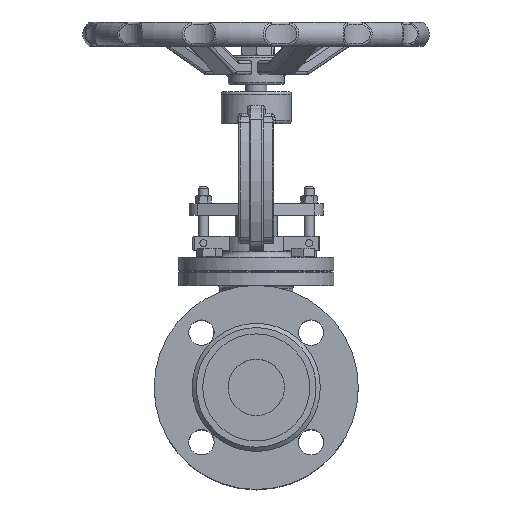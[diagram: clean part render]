
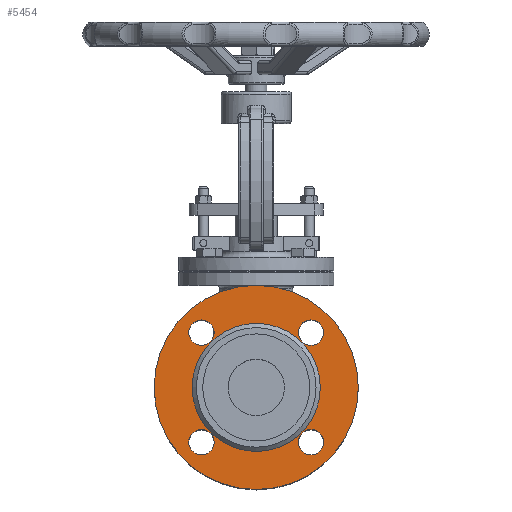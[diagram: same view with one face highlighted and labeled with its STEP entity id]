
A CAD part, top view. The second image highlights one B-rep face of the part: STEP entity #5454.
In plain terms, the highlighted planar face has unit normal (0, 0, 1).
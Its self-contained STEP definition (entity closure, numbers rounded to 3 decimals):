
#5454=ADVANCED_FACE('',(#14301,#14303,#14305,#14307,#14309,#14311),#14313,.T.);
#14301=FACE_BOUND('',#14302,.T.);
#14302=EDGE_LOOP('',(#22418));
#14303=FACE_BOUND('',#14304,.T.);
#14304=EDGE_LOOP('',(#22419));
#14305=FACE_BOUND('',#14306,.T.);
#14306=EDGE_LOOP('',(#22420));
#14307=FACE_BOUND('',#14308,.T.);
#14308=EDGE_LOOP('',(#22421));
#14309=FACE_BOUND('',#14310,.T.);
#14310=EDGE_LOOP('',(#22422));
#14311=FACE_BOUND('',#14312,.T.);
#14312=EDGE_LOOP('',(#22423));
#14313=PLANE('',#14314);
#14314=AXIS2_PLACEMENT_3D('',#14315,#14316,#14317);
#14315=CARTESIAN_POINT('',(0.,0.,97.));
#14316=DIRECTION('',(0.,0.,1.));
#14317=DIRECTION('',(0.,1.,0.));
#22418=ORIENTED_EDGE('',*,*,#25652,.F.);
#22419=ORIENTED_EDGE('',*,*,#25653,.T.);
#22420=ORIENTED_EDGE('',*,*,#25654,.T.);
#22421=ORIENTED_EDGE('',*,*,#25699,.T.);
#22422=ORIENTED_EDGE('',*,*,#25655,.T.);
#22423=ORIENTED_EDGE('',*,*,#25656,.T.);
#25652=EDGE_CURVE('',#28932,#28932,#28933,.T.);
#25653=EDGE_CURVE('',#28934,#28934,#28935,.F.);
#25654=EDGE_CURVE('',#28936,#28936,#28937,.F.);
#25655=EDGE_CURVE('',#28938,#28938,#28939,.F.);
#25656=EDGE_CURVE('',#28940,#28940,#28941,.F.);
#25699=EDGE_CURVE('',#28994,#28994,#28995,.T.);
#28932=VERTEX_POINT('',#48299);
#28933=CIRCLE('',#48300,72.5);
#28934=VERTEX_POINT('',#48304);
#28935=CIRCLE('',#48305,9.);
#28936=VERTEX_POINT('',#48309);
#28937=CIRCLE('',#48310,9.);
#28938=VERTEX_POINT('',#48314);
#28939=CIRCLE('',#48315,9.);
#28940=VERTEX_POINT('',#48319);
#28941=CIRCLE('',#48320,9.);
#28994=VERTEX_POINT('',#48558);
#28995=CIRCLE('',#48559,45.5);
#48299=CARTESIAN_POINT('',(0.,72.5,97.));
#48300=AXIS2_PLACEMENT_3D('',#48301,#48302,#48303);
#48301=CARTESIAN_POINT('',(0.,0.,97.));
#48302=DIRECTION('',(0.,0.,-1.));
#48303=DIRECTION('',(0.,1.,0.));
#48304=CARTESIAN_POINT('',(-38.891,-29.891,97.));
#48305=AXIS2_PLACEMENT_3D('',#48306,#48307,#48308);
#48306=CARTESIAN_POINT('',(-38.891,-38.891,97.));
#48307=DIRECTION('',(0.,0.,1.));
#48308=DIRECTION('',(0.,1.,0.));
#48309=CARTESIAN_POINT('',(38.891,29.891,97.));
#48310=AXIS2_PLACEMENT_3D('',#48311,#48312,#48313);
#48311=CARTESIAN_POINT('',(38.891,38.891,97.));
#48312=DIRECTION('',(0.,0.,1.));
#48313=DIRECTION('',(0.,-1.,0.));
#48314=CARTESIAN_POINT('',(-29.891,38.891,97.));
#48315=AXIS2_PLACEMENT_3D('',#48316,#48317,#48318);
#48316=CARTESIAN_POINT('',(-38.891,38.891,97.));
#48317=DIRECTION('',(0.,0.,1.));
#48318=DIRECTION('',(1.,0.,0.));
#48319=CARTESIAN_POINT('',(29.891,-38.891,97.));
#48320=AXIS2_PLACEMENT_3D('',#48321,#48322,#48323);
#48321=CARTESIAN_POINT('',(38.891,-38.891,97.));
#48322=DIRECTION('',(0.,0.,1.));
#48323=DIRECTION('',(-1.,0.,0.));
#48558=CARTESIAN_POINT('',(0.,45.5,97.));
#48559=AXIS2_PLACEMENT_3D('',#48560,#48561,#48562);
#48560=CARTESIAN_POINT('',(0.,0.,97.));
#48561=DIRECTION('',(0.,0.,-1.));
#48562=DIRECTION('',(0.,1.,0.));
